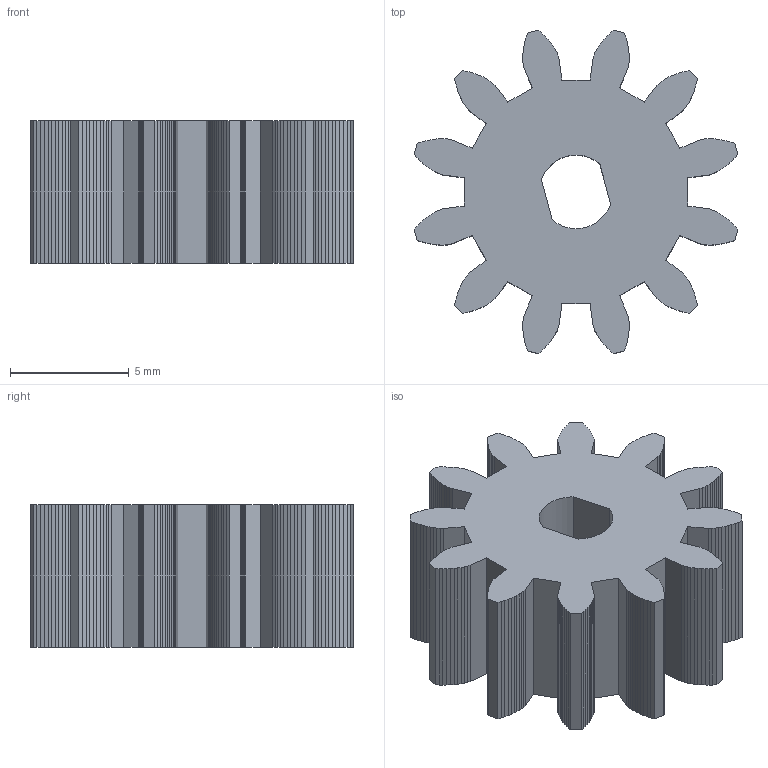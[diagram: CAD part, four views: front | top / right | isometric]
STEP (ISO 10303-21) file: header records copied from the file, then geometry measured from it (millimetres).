
FILE_DESCRIPTION(('Open CASCADE Model'),'2;1');
FILE_NAME('Open CASCADE Shape Model','2026-10-20T19:46:49',('Author'),( 'Open CASCADE'),'Open CASCADE STEP processor 8.0','build123d', 'Unknown');
FILE_SCHEMA(('AUTOMOTIVE_DESIGN { 1 0 10303 214 1 1 1 1 }'));
Length unit declared in the file: millimetre
Products named in the file (2): =>[0:1:1:2]; COMPOUND
Assembly tree (1 placements, depth 2):
  =>[0:1:1:2]
    COMPOUND
Bounding box: 13.64 x 13.64 x 6 mm (x, y, z)
Volume: 586 mm3; surface area: 720.6 mm2
Topology: 1 solids, 1 shells, 294 faces, 876 edges, 584 vertices
Faces by surface type: plane 292, cylinder 2
Entity records: 21084 total; most frequent: CARTESIAN_POINT 3508, DIRECTION 3224, LINE 2620, VECTOR 2620, ORIENTED_EDGE 1752, PCURVE 1752, DEFINITIONAL_REPRESENTATION 1752, EDGE_CURVE 876
